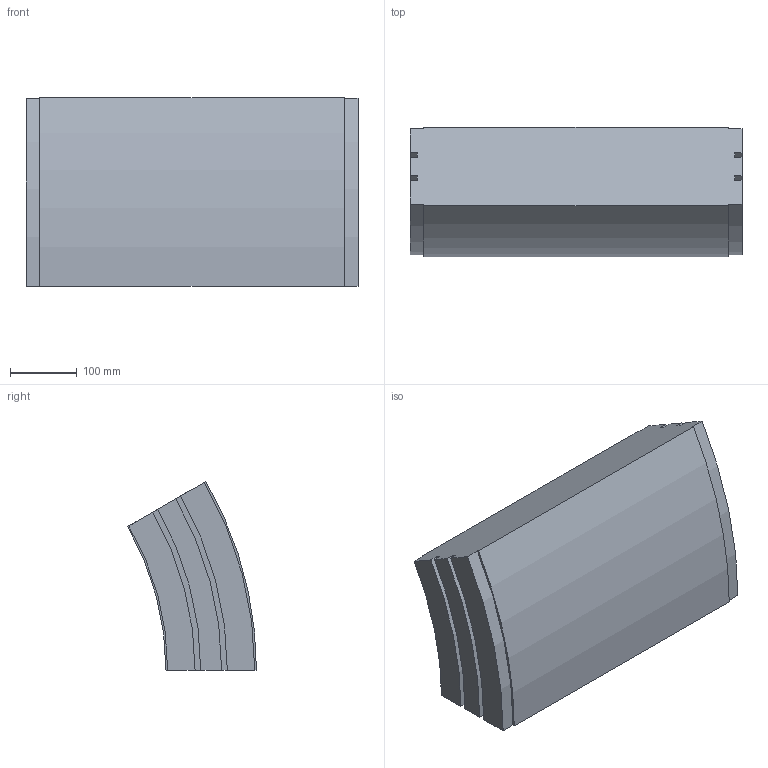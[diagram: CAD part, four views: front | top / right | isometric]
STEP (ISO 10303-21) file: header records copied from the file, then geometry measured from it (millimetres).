
FILE_DESCRIPTION (( 'STEP AP214' ), '1' );
FILE_NAME ('02.150V30.500.N FS-500-MTC-150 Bocht verticaal 30°.STEP', '2013-03-29T13:07:59', ( 'Gebruiker' ), ( '' ), 'SwSTEP 2.0', 'SolidWorks 2012', '' );
FILE_SCHEMA (( 'AUTOMOTIVE_DESIGN' ));
Length unit declared in the file: millimetre
Products named in the file (1): 02.150V30.500.N FS-500-MTC-150 Bocht verticaal 30°
Bounding box: 499 x 193.88 x 284 mm (x, y, z)
Volume: 17613862.8 mm3; surface area: 490083.6 mm2
Topology: 1 solids, 1 shells, 30 faces, 84 edges, 56 vertices
Faces by surface type: plane 16, cylinder 14
Entity records: 1010 total; most frequent: DIRECTION 174, CARTESIAN_POINT 171, ORIENTED_EDGE 168, EDGE_CURVE 84, AXIS2_PLACEMENT_3D 59, VERTEX_POINT 56, LINE 56, VECTOR 56
